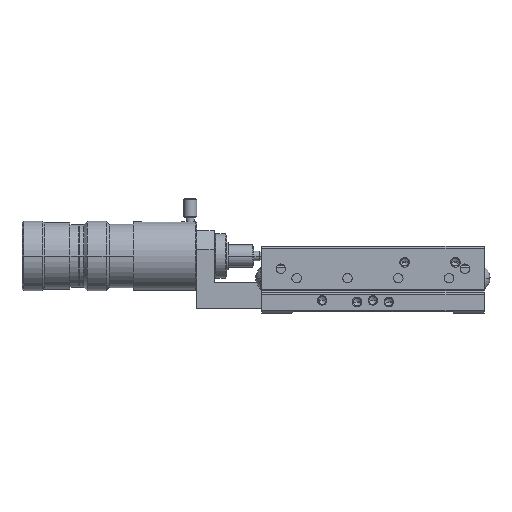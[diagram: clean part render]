
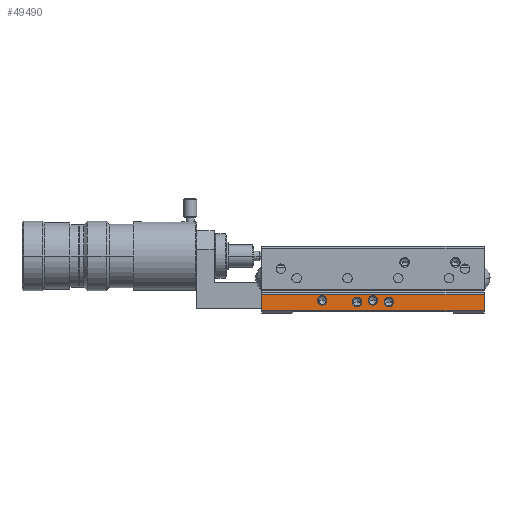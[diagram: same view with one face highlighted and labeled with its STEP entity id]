
A CAD part, left-side view. The second image highlights one B-rep face of the part: STEP entity #49490.
In plain terms, the highlighted planar face has unit normal (-1, 0, 0).
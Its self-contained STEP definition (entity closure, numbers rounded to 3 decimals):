
#1683 = EDGE_CURVE ( 'NONE', #1693, #1687, #17206, .T. ) ;
#1687 = VERTEX_POINT ( 'NONE', #17195 ) ;
#1693 = VERTEX_POINT ( 'NONE', #17190 ) ;
#9917 = VERTEX_POINT ( 'NONE', #32088 ) ;
#10243 = EDGE_CURVE ( 'NONE', #9917, #10244, #32689, .T. ) ;
#10244 = VERTEX_POINT ( 'NONE', #32680 ) ;
#15650 = VERTEX_POINT ( 'NONE', #39710 ) ;
#17190 = CARTESIAN_POINT ( 'NONE',  ( -35., -3.5, 3.5 ) ) ;
#17195 = CARTESIAN_POINT ( 'NONE',  ( -35., -6.5, 3.5 ) ) ;
#17202 = DIRECTION ( 'NONE',  ( 0., -1., 0. ) ) ;
#17203 = DIRECTION ( 'NONE',  ( -1., 0., 0. ) ) ;
#17204 = CARTESIAN_POINT ( 'NONE',  ( -35., -5., 3.5 ) ) ;
#17205 = AXIS2_PLACEMENT_3D ( 'NONE', #17204, #17203, #17202 ) ;
#17206 = CIRCLE ( 'NONE', #17205, 1.5 ) ;
#21242 = VERTEX_POINT ( 'NONE', #39889 ) ;
#21243 = EDGE_CURVE ( 'NONE', #15650, #21242, #39884, .T. ) ;
#32088 = CARTESIAN_POINT ( 'NONE',  ( -35., 17.5, 4. ) ) ;
#32680 = CARTESIAN_POINT ( 'NONE',  ( -35., 14.5, 4. ) ) ;
#32681 = DIRECTION ( 'NONE',  ( 0., -1., 0. ) ) ;
#32682 = DIRECTION ( 'NONE',  ( -1., 0., 0. ) ) ;
#32683 = CARTESIAN_POINT ( 'NONE',  ( -35., 16., 4. ) ) ;
#32684 = AXIS2_PLACEMENT_3D ( 'NONE', #32683, #32682, #32681 ) ;
#32689 = CIRCLE ( 'NONE', #32684, 1.5 ) ;
#39710 = CARTESIAN_POINT ( 'NONE',  ( -35., 35., 6. ) ) ;
#39884 = LINE ( 'NONE', #39948, #39947 ) ;
#39889 = CARTESIAN_POINT ( 'NONE',  ( -35., 35., 0.8 ) ) ;
#39946 = DIRECTION ( 'NONE',  ( 0., 0., -1. ) ) ;
#39947 = VECTOR ( 'NONE', #39946, 1000. ) ;
#39948 = CARTESIAN_POINT ( 'NONE',  ( -35., 35., 6. ) ) ;
#42725 = AXIS2_PLACEMENT_3D ( 'NONE', #42988, #42983, #42982 ) ;
#42946 = DIRECTION ( 'NONE',  ( 0., -1., 0. ) ) ;
#42947 = DIRECTION ( 'NONE',  ( -1., 0., 0. ) ) ;
#42948 = AXIS2_PLACEMENT_3D ( 'NONE', #42954, #42947, #42946 ) ;
#42949 = CIRCLE ( 'NONE', #42948, 1.5 ) ;
#42950 = CIRCLE ( 'NONE', #43015, 1.5 ) ;
#42951 = DIRECTION ( 'NONE',  ( 0., -1., 0. ) ) ;
#42952 = DIRECTION ( 'NONE',  ( -1., 0., 0. ) ) ;
#42953 = AXIS2_PLACEMENT_3D ( 'NONE', #42956, #42952, #42951 ) ;
#42954 = CARTESIAN_POINT ( 'NONE',  ( -35., -5., 3.5 ) ) ;
#42956 = CARTESIAN_POINT ( 'NONE',  ( -35., 35., 6. ) ) ;
#42957 = PLANE ( 'NONE',  #42953 ) ;
#42958 = FACE_OUTER_BOUND ( 'NONE', #49480, .T. ) ;
#42959 = FACE_BOUND ( 'NONE', #49556, .T. ) ;
#42960 = FACE_BOUND ( 'NONE', #49552, .T. ) ;
#42961 = FACE_BOUND ( 'NONE', #49495, .T. ) ;
#42962 = FACE_BOUND ( 'NONE', #49491, .T. ) ;
#42963 = DIRECTION ( 'NONE',  ( 0., -1., 0. ) ) ;
#42964 = VECTOR ( 'NONE', #42963, 1000. ) ;
#42965 = CARTESIAN_POINT ( 'NONE',  ( -35., 35., 6. ) ) ;
#42966 = LINE ( 'NONE', #42965, #42964 ) ;
#42971 = CARTESIAN_POINT ( 'NONE',  ( -35., -35., 0.8 ) ) ;
#42972 = DIRECTION ( 'NONE',  ( 0., 0., -1. ) ) ;
#42973 = VECTOR ( 'NONE', #42972, 1000. ) ;
#42974 = CARTESIAN_POINT ( 'NONE',  ( -35., -35., 6. ) ) ;
#42975 = LINE ( 'NONE', #42974, #42973 ) ;
#42982 = DIRECTION ( 'NONE',  ( 0., -1., 0. ) ) ;
#42983 = DIRECTION ( 'NONE',  ( -1., 0., 0. ) ) ;
#42988 = CARTESIAN_POINT ( 'NONE',  ( -35., 0., 4. ) ) ;
#42990 = CARTESIAN_POINT ( 'NONE',  ( -35., -35., 6. ) ) ;
#43012 = DIRECTION ( 'NONE',  ( 0., -1., 0. ) ) ;
#43013 = DIRECTION ( 'NONE',  ( -1., 0., 0. ) ) ;
#43014 = CARTESIAN_POINT ( 'NONE',  ( -35., 0., 4. ) ) ;
#43015 = AXIS2_PLACEMENT_3D ( 'NONE', #43014, #43013, #43012 ) ;
#43065 = DIRECTION ( 'NONE',  ( 0., -1., 0. ) ) ;
#43066 = VECTOR ( 'NONE', #43065, 1000. ) ;
#43067 = CARTESIAN_POINT ( 'NONE',  ( -35., 35., 0.8 ) ) ;
#43068 = LINE ( 'NONE', #43067, #43066 ) ;
#43100 = DIRECTION ( 'NONE',  ( 0., -1., 0. ) ) ;
#43101 = DIRECTION ( 'NONE',  ( -1., 0., 0. ) ) ;
#43102 = CARTESIAN_POINT ( 'NONE',  ( -35., 16., 4. ) ) ;
#43103 = AXIS2_PLACEMENT_3D ( 'NONE', #43102, #43101, #43100 ) ;
#43104 = CIRCLE ( 'NONE', #43103, 1.5 ) ;
#43105 = DIRECTION ( 'NONE',  ( 0., -1., 0. ) ) ;
#43106 = DIRECTION ( 'NONE',  ( -1., 0., 0. ) ) ;
#43107 = CARTESIAN_POINT ( 'NONE',  ( -35., 5., 3.5 ) ) ;
#43108 = AXIS2_PLACEMENT_3D ( 'NONE', #43107, #43106, #43105 ) ;
#43109 = CIRCLE ( 'NONE', #43108, 1.5 ) ;
#43230 = CIRCLE ( 'NONE', #42725, 1.5 ) ;
#43237 = CARTESIAN_POINT ( 'NONE',  ( -35., 1.5, 4. ) ) ;
#43290 = CARTESIAN_POINT ( 'NONE',  ( -35., -1.5, 4. ) ) ;
#44577 = CARTESIAN_POINT ( 'NONE',  ( -35., 6.5, 3.5 ) ) ;
#44578 = DIRECTION ( 'NONE',  ( 0., -1., 0. ) ) ;
#44579 = DIRECTION ( 'NONE',  ( -1., 0., 0. ) ) ;
#44580 = CARTESIAN_POINT ( 'NONE',  ( -35., 5., 3.5 ) ) ;
#44581 = AXIS2_PLACEMENT_3D ( 'NONE', #44580, #44579, #44578 ) ;
#44582 = CIRCLE ( 'NONE', #44581, 1.5 ) ;
#44598 = CARTESIAN_POINT ( 'NONE',  ( -35., 3.5, 3.5 ) ) ;
#49480 = EDGE_LOOP ( 'NONE', ( #49481, #49538, #49539, #49540 ) ) ;
#49481 = ORIENTED_EDGE ( 'NONE', *, *, #49482, .F. ) ;
#49482 = EDGE_CURVE ( 'NONE', #49511, #49483, #42975, .T. ) ;
#49483 = VERTEX_POINT ( 'NONE', #42971 ) ;
#49489 = EDGE_CURVE ( 'NONE', #15650, #49511, #42966, .T. ) ;
#49490 = ADVANCED_FACE ( 'NONE', ( #42962, #42961, #42960, #42959, #42958 ), #42957, .T. ) ;
#49491 = EDGE_LOOP ( 'NONE', ( #49492, #49494 ) ) ;
#49492 = ORIENTED_EDGE ( 'NONE', *, *, #49493, .F. ) ;
#49493 = EDGE_CURVE ( 'NONE', #1687, #1693, #42949, .T. ) ;
#49494 = ORIENTED_EDGE ( 'NONE', *, *, #1683, .F. ) ;
#49495 = EDGE_LOOP ( 'NONE', ( #49496, #49551 ) ) ;
#49496 = ORIENTED_EDGE ( 'NONE', *, *, #49497, .F. ) ;
#49497 = EDGE_CURVE ( 'NONE', #49664, #49658, #42950, .T. ) ;
#49511 = VERTEX_POINT ( 'NONE', #42990 ) ;
#49538 = ORIENTED_EDGE ( 'NONE', *, *, #49489, .F. ) ;
#49539 = ORIENTED_EDGE ( 'NONE', *, *, #21243, .T. ) ;
#49540 = ORIENTED_EDGE ( 'NONE', *, *, #49541, .T. ) ;
#49541 = EDGE_CURVE ( 'NONE', #21242, #49483, #43068, .T. ) ;
#49551 = ORIENTED_EDGE ( 'NONE', *, *, #49662, .F. ) ;
#49552 = EDGE_LOOP ( 'NONE', ( #49553, #49555 ) ) ;
#49553 = ORIENTED_EDGE ( 'NONE', *, *, #49554, .F. ) ;
#49554 = EDGE_CURVE ( 'NONE', #50357, #50364, #43109, .T. ) ;
#49555 = ORIENTED_EDGE ( 'NONE', *, *, #50363, .F. ) ;
#49556 = EDGE_LOOP ( 'NONE', ( #49557, #49559 ) ) ;
#49557 = ORIENTED_EDGE ( 'NONE', *, *, #49558, .F. ) ;
#49558 = EDGE_CURVE ( 'NONE', #10244, #9917, #43104, .T. ) ;
#49559 = ORIENTED_EDGE ( 'NONE', *, *, #10243, .F. ) ;
#49658 = VERTEX_POINT ( 'NONE', #43237 ) ;
#49662 = EDGE_CURVE ( 'NONE', #49658, #49664, #43230, .T. ) ;
#49664 = VERTEX_POINT ( 'NONE', #43290 ) ;
#50357 = VERTEX_POINT ( 'NONE', #44598 ) ;
#50363 = EDGE_CURVE ( 'NONE', #50364, #50357, #44582, .T. ) ;
#50364 = VERTEX_POINT ( 'NONE', #44577 ) ;
